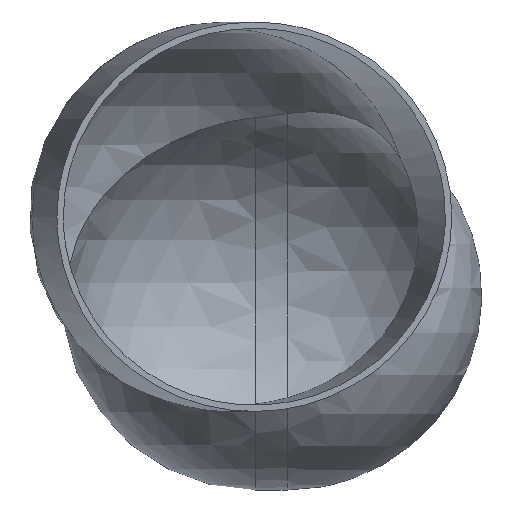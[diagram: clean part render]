
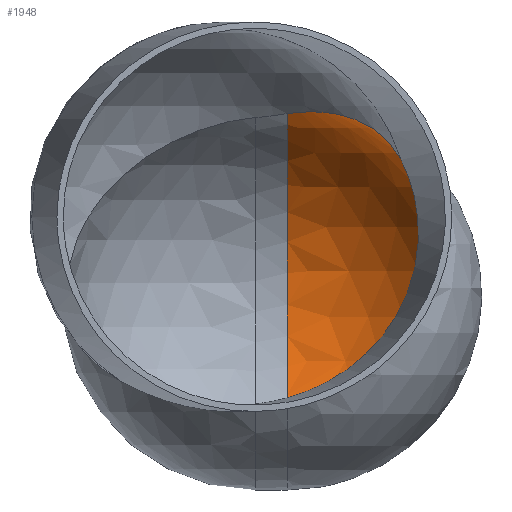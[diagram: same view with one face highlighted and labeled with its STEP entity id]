
A CAD part, front view. The second image highlights one B-rep face of the part: STEP entity #1948.
In plain terms, the highlighted spherical face has radius 60 mm.
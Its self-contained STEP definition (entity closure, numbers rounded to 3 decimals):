
#1072 = SPHERICAL_SURFACE('',#1073,60.);
#1073 = AXIS2_PLACEMENT_3D('',#1074,#1075,#1076);
#1074 = CARTESIAN_POINT('',(-170.,-30.,25.));
#1075 = DIRECTION('',(0.,0.,1.));
#1076 = DIRECTION('',(1.,0.,-0.));
#1371 = SPHERICAL_SURFACE('',#1372,60.);
#1372 = AXIS2_PLACEMENT_3D('',#1373,#1374,#1375);
#1373 = CARTESIAN_POINT('',(-149.9,0.,0.));
#1374 = DIRECTION('',(0.,0.,1.));
#1375 = DIRECTION('',(1.,0.,-0.));
#1524 = VERTEX_POINT('',#1525);
#1525 = CARTESIAN_POINT('',(-128.274,0.,
    55.967));
#1570 = EDGE_CURVE('',#1571,#1524,#1573,.T.);
#1571 = VERTEX_POINT('',#1572);
#1572 = CARTESIAN_POINT('',(-149.9,16.032,
    57.818));
#1573 = SURFACE_CURVE('',#1574,(#1579,#1592),.PCURVE_S1.);
#1574 = CIRCLE('',#1575,55.837);
#1575 = AXIS2_PLACEMENT_3D('',#1576,#1577,#1578);
#1576 = CARTESIAN_POINT('',(-159.95,-15.,12.5));
#1577 = DIRECTION('',(0.458,0.683,-0.569));
#1578 = DIRECTION('',(0.,0.64,0.768)
  );
#1579 = PCURVE('',#1072,#1580);
#1580 = DEFINITIONAL_REPRESENTATION('',(#1581),#1591);
#1581 = B_SPLINE_CURVE_WITH_KNOTS('',8,(#1582,#1583,#1584,#1585,#1586,
    #1587,#1588,#1589,#1590),.UNSPECIFIED.,.F.,.F.,(9,9),(0.204
    ,0.692),.PIECEWISE_BEZIER_KNOTS.);
#1582 = CARTESIAN_POINT('',(1.159,0.579));
#1583 = CARTESIAN_POINT('',(1.092,0.588));
#1584 = CARTESIAN_POINT('',(1.024,0.593));
#1585 = CARTESIAN_POINT('',(0.955,0.594));
#1586 = CARTESIAN_POINT('',(0.886,0.591));
#1587 = CARTESIAN_POINT('',(0.818,0.585));
#1588 = CARTESIAN_POINT('',(0.751,0.574));
#1589 = CARTESIAN_POINT('',(0.686,0.56));
#1590 = CARTESIAN_POINT('',(0.623,0.542));
#1591 = ( GEOMETRIC_REPRESENTATION_CONTEXT(2) 
PARAMETRIC_REPRESENTATION_CONTEXT() REPRESENTATION_CONTEXT('2D SPACE',''
  ) );
#1592 = PCURVE('',#1593,#1598);
#1593 = SPHERICAL_SURFACE('',#1594,60.);
#1594 = AXIS2_PLACEMENT_3D('',#1595,#1596,#1597);
#1595 = CARTESIAN_POINT('',(-149.9,0.,0.));
#1596 = DIRECTION('',(0.,0.,1.));
#1597 = DIRECTION('',(1.,0.,-0.));
#1598 = DEFINITIONAL_REPRESENTATION('',(#1599),#1630);
#1599 = B_SPLINE_CURVE_WITH_KNOTS('',8,(#1600,#1601,#1602,#1603,#1604,
    #1605,#1606,#1607,#1608,#1609,#1610,#1611,#1612,#1613,#1614,#1615,
    #1616,#1617,#1618,#1619,#1620,#1621,#1622,#1623,#1624,#1625,#1626,
    #1627,#1628,#1629),.UNSPECIFIED.,.F.,.F.,(9,7,7,7,9),(0.204
    ,0.326,0.417,0.555,0.692),
  .UNSPECIFIED.);
#1600 = CARTESIAN_POINT('',(1.571,1.3));
#1601 = CARTESIAN_POINT('',(1.525,1.307));
#1602 = CARTESIAN_POINT('',(1.476,1.314));
#1603 = CARTESIAN_POINT('',(1.425,1.32));
#1604 = CARTESIAN_POINT('',(1.371,1.325));
#1605 = CARTESIAN_POINT('',(1.315,1.329));
#1606 = CARTESIAN_POINT('',(1.257,1.333));
#1607 = CARTESIAN_POINT('',(1.197,1.336));
#1608 = CARTESIAN_POINT('',(1.09,1.339));
#1609 = CARTESIAN_POINT('',(1.044,1.34));
#1610 = CARTESIAN_POINT('',(0.998,1.34));
#1611 = CARTESIAN_POINT('',(0.951,1.34));
#1612 = CARTESIAN_POINT('',(0.904,1.34));
#1613 = CARTESIAN_POINT('',(0.858,1.339));
#1614 = CARTESIAN_POINT('',(0.812,1.337));
#1615 = CARTESIAN_POINT('',(0.7,1.332));
#1616 = CARTESIAN_POINT('',(0.635,1.328));
#1617 = CARTESIAN_POINT('',(0.572,1.323));
#1618 = CARTESIAN_POINT('',(0.512,1.317));
#1619 = CARTESIAN_POINT('',(0.455,1.31));
#1620 = CARTESIAN_POINT('',(0.402,1.303));
#1621 = CARTESIAN_POINT('',(0.351,1.295));
#1622 = CARTESIAN_POINT('',(0.257,1.277));
#1623 = CARTESIAN_POINT('',(0.212,1.268));
#1624 = CARTESIAN_POINT('',(0.171,1.258));
#1625 = CARTESIAN_POINT('',(0.132,1.247));
#1626 = CARTESIAN_POINT('',(0.096,1.236));
#1627 = CARTESIAN_POINT('',(0.062,1.225));
#1628 = CARTESIAN_POINT('',(0.03,1.214));
#1629 = CARTESIAN_POINT('',(0.,1.202));
#1630 = ( GEOMETRIC_REPRESENTATION_CONTEXT(2) 
PARAMETRIC_REPRESENTATION_CONTEXT() REPRESENTATION_CONTEXT('2D SPACE',''
  ) );
#1656 = CYLINDRICAL_SURFACE('',#1657,60.);
#1657 = AXIS2_PLACEMENT_3D('',#1658,#1659,#1660);
#1658 = CARTESIAN_POINT('',(-149.9,0.,0.));
#1659 = DIRECTION('',(-1.,0.,0.));
#1660 = DIRECTION('',(0.,0.,-1.));
#1795 = EDGE_CURVE('',#1796,#1524,#1798,.T.);
#1796 = VERTEX_POINT('',#1797);
#1797 = CARTESIAN_POINT('',(-149.9,0.,-60.));
#1798 = SURFACE_CURVE('',#1799,(#1804,#1811),.PCURVE_S1.);
#1799 = CIRCLE('',#1800,60.);
#1800 = AXIS2_PLACEMENT_3D('',#1801,#1802,#1803);
#1801 = CARTESIAN_POINT('',(-149.9,0.,0.));
#1802 = DIRECTION('',(0.,-1.,0.));
#1803 = DIRECTION('',(1.,0.,0.));
#1804 = PCURVE('',#1371,#1805);
#1805 = DEFINITIONAL_REPRESENTATION('',(#1806),#1810);
#1806 = LINE('',#1807,#1808);
#1807 = CARTESIAN_POINT('',(6.283,-6.283));
#1808 = VECTOR('',#1809,1.);
#1809 = DIRECTION('',(0.,1.));
#1810 = ( GEOMETRIC_REPRESENTATION_CONTEXT(2) 
PARAMETRIC_REPRESENTATION_CONTEXT() REPRESENTATION_CONTEXT('2D SPACE',''
  ) );
#1811 = PCURVE('',#1593,#1812);
#1812 = DEFINITIONAL_REPRESENTATION('',(#1813),#1817);
#1813 = LINE('',#1814,#1815);
#1814 = CARTESIAN_POINT('',(0.,-6.283));
#1815 = VECTOR('',#1816,1.);
#1816 = DIRECTION('',(0.,1.));
#1817 = ( GEOMETRIC_REPRESENTATION_CONTEXT(2) 
PARAMETRIC_REPRESENTATION_CONTEXT() REPRESENTATION_CONTEXT('2D SPACE',''
  ) );
#1925 = EDGE_CURVE('',#1571,#1796,#1926,.T.);
#1926 = SURFACE_CURVE('',#1927,(#1932,#1939),.PCURVE_S1.);
#1927 = CIRCLE('',#1928,60.);
#1928 = AXIS2_PLACEMENT_3D('',#1929,#1930,#1931);
#1929 = CARTESIAN_POINT('',(-149.9,0.,0.));
#1930 = DIRECTION('',(-1.,0.,0.));
#1931 = DIRECTION('',(0.,0.,-1.));
#1932 = PCURVE('',#1656,#1933);
#1933 = DEFINITIONAL_REPRESENTATION('',(#1934),#1938);
#1934 = LINE('',#1935,#1936);
#1935 = CARTESIAN_POINT('',(0.,0.));
#1936 = VECTOR('',#1937,1.);
#1937 = DIRECTION('',(1.,0.));
#1938 = ( GEOMETRIC_REPRESENTATION_CONTEXT(2) 
PARAMETRIC_REPRESENTATION_CONTEXT() REPRESENTATION_CONTEXT('2D SPACE',''
  ) );
#1939 = PCURVE('',#1593,#1940);
#1940 = DEFINITIONAL_REPRESENTATION('',(#1941),#1945);
#1941 = LINE('',#1942,#1943);
#1942 = CARTESIAN_POINT('',(1.571,4.712));
#1943 = VECTOR('',#1944,1.);
#1944 = DIRECTION('',(0.,-1.));
#1945 = ( GEOMETRIC_REPRESENTATION_CONTEXT(2) 
PARAMETRIC_REPRESENTATION_CONTEXT() REPRESENTATION_CONTEXT('2D SPACE',''
  ) );
#1948 = ADVANCED_FACE('',(#1949),#1593,.F.);
#1949 = FACE_BOUND('',#1950,.F.);
#1950 = EDGE_LOOP('',(#1951,#1952,#1953));
#1951 = ORIENTED_EDGE('',*,*,#1925,.F.);
#1952 = ORIENTED_EDGE('',*,*,#1570,.T.);
#1953 = ORIENTED_EDGE('',*,*,#1795,.F.);
